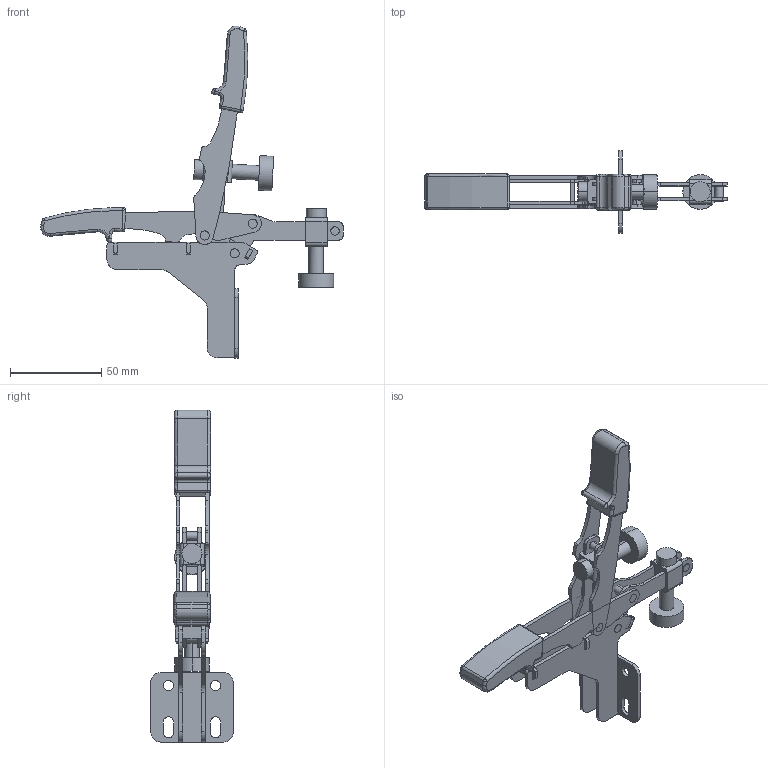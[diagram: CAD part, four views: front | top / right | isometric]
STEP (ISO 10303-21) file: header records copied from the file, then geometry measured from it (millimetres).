
FILE_DESCRIPTION( ( 'STEP AP214' ), '1' );
FILE_NAME( 'X:/CAD_Daten_Platzhalter/STC_HA20/STC_HA20.stp', ' ', ( ' ' ), ( ' ' ), 'PSStep 11.0', ' ', ' ' );
FILE_SCHEMA( ( 'AUTOMOTIVE_DESIGN { 1 0 10303 214 1 1 1 1 }' ) );
Length unit declared in the file: metre
Products named in the file (23): 1; 2; 3; 4; 5; 6; 7; 8; 9; 10; 11; 12; 13; 14; 15; 16; 17; 18; 19; 20; 21; 22; 23
Bounding box: 166.23 x 45.09 x 182.33 mm (x, y, z)
Volume: 37290.8 mm3; surface area: 42556.8 mm2
Topology: 21 solids, 103 shells, 400 faces, 1144 edges, 868 vertices
Faces by surface type: bspline 400
Entity records: 24930 total; most frequent: CARTESIAN_POINT 15024, ORIENTED_EDGE 1924, EDGE_CURVE 1132, B_SPLINE_CURVE_WITH_KNOTS 925, VERTEX_POINT 868, EDGE_LOOP 424, STYLED_ITEM 400, PRESENTATION_STYLE_ASSIGNMENT 400
